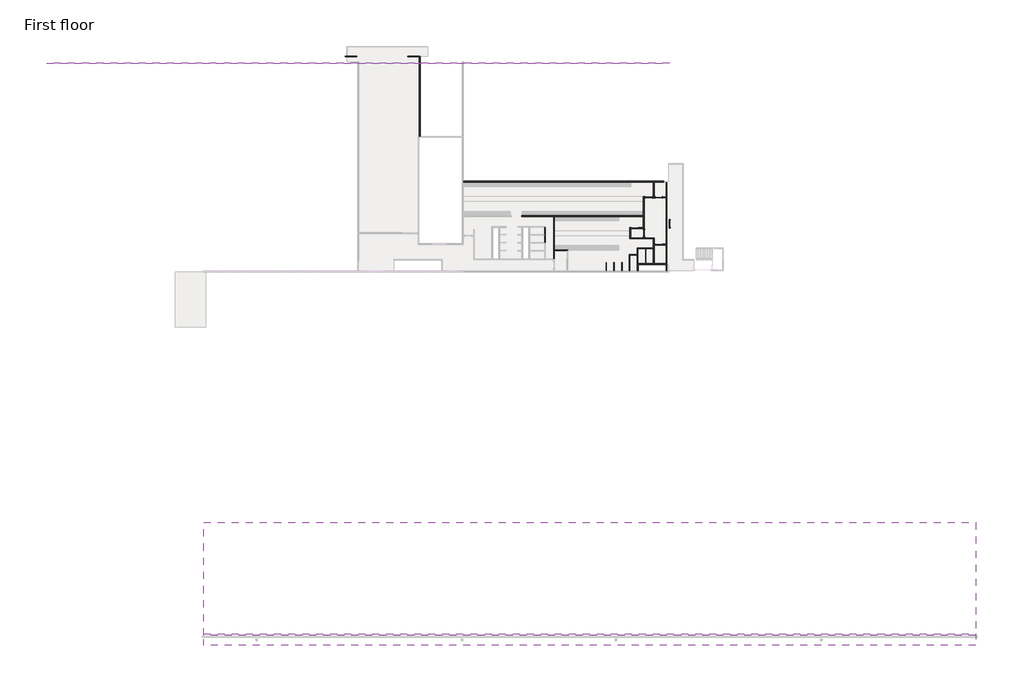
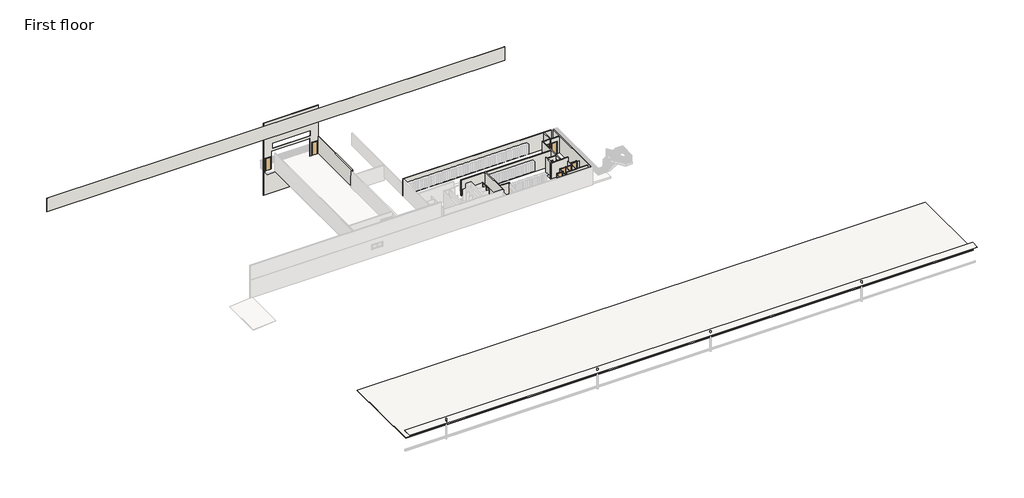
# One storey, part 2 of 5: 30 walls, 13 doors, 2 slabs.
"""IFC4 building model written with IfcOpenShell, lengths in millimetres."""

from ifc_helpers import new_model, si_unit, frame, origin, place, context, project, spatial, polyline, outline, extrude, faceted_brep, transform, mapped, element, save
from components import m_single_flush_0813_x_2030mm_0e9c7165, m_single_flush_0813_x_2030mm_4a34e6f7, m_single_flush_0813_x_2030mm_24a3edba, m_single_flush_0813_x_2030mm_77d0a044, m_single_flush_0813_x_2030mm_dc5b1935, m_single_flush_0813_x_2134mm_f6a4020b, m_single_flush_0813_x_2030mm_d505ac39

model = new_model("IFC4")

# Units and contexts
model_context = context("Model", 3, world=origin())
ifc_project = project(units=[si_unit("LENGTHUNIT", "METRE", prefix="MILLI")], contexts=[model_context])

# Site, building, storey
site = spatial("IfcSite", under=ifc_project)
building = spatial("IfcBuilding", under=site)
storey = spatial("IfcBuildingStorey", under=building, Name="First floor", Elevation=48170.0)

# Doors
placement = place(None, origin())
m_single_flush_0813_x_2030mm_shape = m_single_flush_0813_x_2030mm_0e9c7165(model_context)
element("IfcDoor", 1, ObjectType="M_Single-Flush : 0813 x 2030mm", at=placement, inside=storey, context=model_context, shape_type="MappedRepresentation", body=[
    mapped(m_single_flush_0813_x_2030mm_shape, transform((-82079.6448145, 15101.2777512, 48170.0), x_axis=(1.0, 0.0, 0.0), y_axis=(0.0, 1.0, 0.0), z_axis=(0.0, 0.0, 1.0))),
])
element("IfcDoor", 2, ObjectType="M_Single-Flush : 0813 x 2030mm", at=placement, inside=storey, context=model_context, shape_type="MappedRepresentation", body=[
    mapped(m_single_flush_0813_x_2030mm_shape, transform((-83210.6451319, 20619.2777512, 48170.0), x_axis=(1.0, 0.0, 0.0), y_axis=(0.0, 1.0, 0.0), z_axis=(0.0, 0.0, 1.0))),
])
m_single_flush_0813_x_2030mm_2_shape = m_single_flush_0813_x_2030mm_4a34e6f7(model_context)
element("IfcDoor", 3, ObjectType="M_Single-Flush : 0813 x 2030mm", at=placement, inside=storey, context=model_context, shape_type="MappedRepresentation", body=[
    mapped(m_single_flush_0813_x_2030mm_2_shape, transform((-82071.6448145, 20599.2777512, 48170.0), x_axis=(-1.0, 0.0, 0.0), y_axis=(0.0, -1.0, 0.0), z_axis=(0.0, 0.0, 1.0))),
])
element("IfcDoor", 4, ObjectType="M_Single-Flush : 0813 x 2030mm", at=placement, inside=storey, context=model_context, shape_type="MappedRepresentation", body=[
    mapped(m_single_flush_0813_x_2030mm_2_shape, transform((-84869.6454492, 17019.2679026, 48170.0), x_axis=(-1.0, 0.0, 0.0), y_axis=(0.0, -1.0, 0.0), z_axis=(0.0, 0.0, 1.0))),
])
element("IfcDoor", 5, ObjectType="M_Single-Flush : 0813 x 2030mm", at=placement, inside=storey, context=model_context, shape_type="MappedRepresentation", body=[
    mapped(m_single_flush_0813_x_2030mm_2_shape, transform((-83793.1454492, 16419.2728269, 48170.0), x_axis=(0.0, -1.0, 0.0), y_axis=(1.0, 0.0, 0.0), z_axis=(0.0, 0.0, 1.0))),
])
m_single_flush_0813_x_2030mm_3_shape = m_single_flush_0813_x_2030mm_24a3edba(model_context)
element("IfcDoor", 6, ObjectType="M_Single-Flush : 0813 x 2030mm", at=placement, inside=storey, context=model_context, shape_type="MappedRepresentation", body=[
    mapped(m_single_flush_0813_x_2030mm_3_shape, transform((-84039.6491113, 14658.2777512, 48170.0), x_axis=(1.0, 0.0, 0.0), y_axis=(0.0, 1.0, 0.0), z_axis=(0.0, 0.0, 1.0))),
])
element("IfcDoor", 7, ObjectType="M_Single-Flush : 0813 x 2030mm", at=placement, inside=storey, context=model_context, shape_type="MappedRepresentation", body=[
    mapped(m_single_flush_0813_x_2030mm_3_shape, transform((-83128.1452539, 14658.2777512, 48170.0), x_axis=(1.0, 0.0, 0.0), y_axis=(0.0, 1.0, 0.0), z_axis=(0.0, 0.0, 1.0))),
])
element("IfcDoor", 8, ObjectType="M_Single-Flush : 0813 x 2030mm", at=placement, inside=storey, context=model_context, shape_type="MappedRepresentation", body=[
    mapped(m_single_flush_0813_x_2030mm_3_shape, transform((-84989.6525293, 13908.2777512, 48170.0), x_axis=(1.0, 0.0, 0.0), y_axis=(0.0, 1.0, 0.0), z_axis=(0.0, 0.0, 1.0))),
])
m_single_flush_0813_x_2030mm_4_shape = m_single_flush_0813_x_2030mm_77d0a044(model_context)
element("IfcDoor", 9, ObjectType="M_Single-Flush : 0813 x 2030mm", at=placement, inside=storey, context=model_context, shape_type="MappedRepresentation", body=[
    mapped(m_single_flush_0813_x_2030mm_4_shape, transform((-95325.6956785, 15763.2745286, 48170.0), x_axis=(0.0, 1.0, 0.0), y_axis=(-1.0, 0.0, 0.0), z_axis=(0.0, 0.0, 1.0))),
])
element("IfcDoor", 10, ObjectType="M_Single-Flush : 0813 x 2030mm", at=placement, inside=storey, context=model_context, shape_type="MappedRepresentation", body=[
    mapped(m_single_flush_0813_x_2030mm_4_shape, transform((-95325.6956785, 16693.2717527, 48170.0), x_axis=(0.0, 1.0, 0.0), y_axis=(-1.0, 0.0, 0.0), z_axis=(0.0, 0.0, 1.0))),
])
m_single_flush_0813_x_2030mm_5_shape = m_single_flush_0813_x_2030mm_dc5b1935(model_context)
element("IfcDoor", 11, ObjectType="M_Single-Flush : 0813 x 2030mm", at=placement, inside=storey, context=model_context, shape_type="MappedRepresentation", body=[
    mapped(m_single_flush_0813_x_2030mm_5_shape, transform((-80781.5917799, 17522.7679026, 48170.0), x_axis=(0.0, 1.0, 0.0), y_axis=(-1.0, 0.0, 0.0), z_axis=(0.0, 0.0, 1.0))),
])
m_single_flush_0813_x_2134mm_shape = m_single_flush_0813_x_2134mm_f6a4020b(model_context)
element("IfcDoor", 12, ObjectType="M_Single-Flush : 0813 x 2134mm", at=placement, inside=storey, context=model_context, shape_type="MappedRepresentation", body=[
    mapped(m_single_flush_0813_x_2134mm_shape, transform((-110514.3719448, 37047.2777512, 48170.0), x_axis=(-1.0, 0.0, 0.0), y_axis=(0.0, -1.0, 0.0), z_axis=(0.0, 0.0, 1.0))),
])
m_single_flush_0813_x_2030mm_6_shape = m_single_flush_0813_x_2030mm_d505ac39(model_context)
element("IfcDoor", 13, ObjectType="M_Single-Flush : 813 x 2030mm", at=placement, inside=storey, context=model_context, shape_type="MappedRepresentation", body=[
    mapped(m_single_flush_0813_x_2030mm_6_shape, transform((-117873.900716, 37047.2777512, 48170.0), x_axis=(-1.0, 0.0, 0.0), y_axis=(0.0, -1.0, 0.0), z_axis=(0.0, 0.0, 1.0))),
])

# Slabs
element("IfcSlab", 14, ObjectType="isopanel ceiling", at=placement, inside=storey, context=model_context, shape_type="SweptSolid", body=[
    extrude(outline(polyline([(-45100.5917799, -17321.740321), (-45100.5917799, -30521.740321), (-135100.5917799, -30521.740321), (-135100.5917799, -17321.740321), (-45100.5917799, -17321.740321)])), frame((0.0, 0.0, 50170.0), z_axis=(0.0, 0.0, 1.0), x_axis=(1.0, 0.0, 0.0)), (0.0, 0.0, 1.0), 100.0),
])
element("IfcSlab", 15, ObjectType="cladding", at=placement, inside=storey, context=model_context, shape_type="SweptSolid", body=[
    extrude(outline(polyline([(-45100.5917799, -30321.740321), (-45100.5917799, -31659.740321), (-135100.5917799, -31659.740321), (-135100.5917799, -30321.740321), (-45100.5917799, -30321.740321)])), frame((0.0, 0.0, 51370.0), z_axis=(0.0, 0.0, 1.0), x_axis=(1.0, 0.0, 0.0)), (0.0, 0.0, 1.0), 50.0),
])

# Walls
element("IfcWall", 16, ObjectType="Isopanel", at=placement, inside=storey, context=model_context, shape_type="Brep", body=[
    faceted_brep([(-104947.9372768, 22407.4703267, 48170.0), (-104847.9372768, 22407.4703267, 48170.0), (-82678.1448145, 22407.4703267, 48170.0), (-82578.1448145, 22407.4703267, 48170.0), (-81447.9372768, 22407.4703267, 48170.0), (-81447.9372768, 22407.4703267, 50970.0), (-82578.1448145, 22407.4703267, 50970.0), (-82678.1448145, 22407.4703267, 50970.0), (-104847.9372768, 22407.4703267, 50970.0), (-104947.9372768, 22407.4703267, 50970.0), (-104947.9372768, 22507.4703267, 48170.0), (-104947.9372768, 22507.4703267, 50970.0), (-81447.9372768, 22507.4703267, 50970.0), (-81447.9372768, 22507.4703267, 48170.0)], [[[0, 1, 2, 3, 4, 5, 6, 7, 8, 9]], [[10, 11, 12, 13]], [[4, 3, 2, 1, 0, 10, 13]], [[9, 8, 7, 6, 5, 12, 11]], [[0, 9, 11, 10]], [[5, 4, 13, 12]]]),
])
element("IfcWall", 17, ObjectType="22 Partition", at=placement, inside=storey, context=model_context, shape_type="Brep", body=[
    faceted_brep([(-84516.1491113, 12869.2777512, 48170.0), (-84516.1491113, 14647.2777512, 48170.0), (-84516.1491113, 14669.2777512, 48170.0), (-84516.1491113, 14669.2777512, 50170.0), (-84516.1491113, 14647.2777512, 50170.0), (-84516.1491113, 12869.2777512, 50170.0), (-84538.1491113, 12869.2777512, 48170.0), (-84538.1491113, 12869.2777512, 50170.0), (-84538.1491113, 13897.2777512, 50170.0), (-84538.1491113, 13919.2777512, 50170.0), (-84538.1491113, 14669.2777512, 50170.0), (-84538.1491113, 14669.2777512, 48170.0), (-84538.1491113, 13919.2777512, 48170.0), (-84538.1491113, 13897.2777512, 48170.0)], [[[0, 1, 2, 3, 4, 5]], [[6, 7, 8, 9, 10, 11, 12, 13]], [[2, 1, 0, 6, 13, 12, 11]], [[5, 4, 3, 10, 9, 8, 7]], [[0, 5, 7, 6]], [[3, 2, 11, 10]]]),
])
element("IfcWall", 18, ObjectType="22 Partition", at=placement, inside=storey, context=model_context, shape_type="Brep", body=[
    faceted_brep([(-84516.1491113, 14647.2777512, 50170.0), (-84516.1491113, 14647.2777512, 48170.0), (-84446.1491113, 14647.2777512, 48170.0), (-84446.1491113, 14647.2777512, 50170.0), (-84516.1491113, 14669.2777512, 48170.0), (-84516.1491113, 14669.2777512, 50170.0), (-84446.1491113, 14669.2777512, 50170.0), (-84446.1491113, 14669.2777512, 48170.0)], [[[0, 1, 2, 3]], [[4, 5, 6, 7]], [[1, 4, 7, 2]], [[5, 0, 3, 6]], [[1, 0, 5, 4]], [[3, 2, 7, 6]]]),
    faceted_brep([(-82678.1448145, 14647.2777512, 48170.0), (-82678.1448145, 14647.2777512, 50170.0), (-82721.6452539, 14647.2777512, 50170.0), (-82721.6452539, 14647.2777512, 48170.0), (-82678.1448145, 14669.2777512, 50170.0), (-82678.1448145, 14669.2777512, 48170.0), (-82721.6452539, 14669.2777512, 48170.0), (-82721.6452539, 14669.2777512, 50170.0)], [[[0, 1, 2, 3]], [[4, 5, 6, 7]], [[5, 0, 3, 6]], [[1, 4, 7, 2]], [[1, 0, 5, 4]], [[3, 2, 7, 6]]]),
    faceted_brep([(-83633.1491113, 14647.2777512, 50170.0), (-83633.1491113, 14647.2777512, 48170.0), (-83600.1456934, 14647.2777512, 48170.0), (-83578.1456934, 14647.2777512, 48170.0), (-83534.6452539, 14647.2777512, 48170.0), (-83534.6452539, 14647.2777512, 50170.0), (-83578.1456934, 14647.2777512, 50170.0), (-83600.1456934, 14647.2777512, 50170.0), (-83633.1491113, 14669.2777512, 48170.0), (-83633.1491113, 14669.2777512, 50170.0), (-83534.6452539, 14669.2777512, 50170.0), (-83534.6452539, 14669.2777512, 48170.0)], [[[0, 1, 2, 3, 4, 5, 6, 7]], [[8, 9, 10, 11]], [[1, 8, 11, 4, 3, 2]], [[9, 0, 7, 6, 5, 10]], [[1, 0, 9, 8]], [[5, 4, 11, 10]]]),
])
element("IfcWall", 19, ObjectType="22 Partition", at=placement, inside=storey, context=model_context, shape_type="SweptSolid", body=[
    extrude(outline(polyline([(-83578.1456934, 14647.2777512), (-83578.1456934, 12869.2777512), (-83600.1456934, 12869.2777512), (-83600.1456934, 14647.2777512), (-83578.1456934, 14647.2777512)])), frame((0.0, 0.0, 48170.0), z_axis=(0.0, 0.0, 1.0), x_axis=(1.0, 0.0, 0.0)), (0.0, 0.0, 1.0), 2000.0),
])
element("IfcWall", 20, ObjectType="22 Partition", at=placement, inside=storey, context=model_context, shape_type="Brep", body=[
    faceted_brep([(-95336.6956785, 17147.2679026, 50170.0), (-95336.6956785, 17147.2679026, 48170.0), (-95336.6956785, 17099.7717527, 48170.0), (-95336.6956785, 17099.7717527, 50170.0), (-95314.6956785, 17147.2679026, 48170.0), (-95314.6956785, 17147.2679026, 50170.0), (-95314.6956785, 17099.7717527, 50170.0), (-95314.6956785, 17099.7717527, 48170.0)], [[[0, 1, 2, 3]], [[4, 5, 6, 7]], [[1, 4, 7, 2]], [[5, 0, 3, 6]], [[1, 0, 5, 4]], [[3, 2, 7, 6]]]),
    faceted_brep([(-95336.6956785, 13419.2679026, 48170.0), (-95336.6956785, 13419.2679026, 50170.0), (-95336.6956785, 13481.7696043, 50170.0), (-95336.6956785, 13481.7696043, 48170.0), (-95314.6956785, 13419.2679026, 50170.0), (-95314.6956785, 13419.2679026, 48170.0), (-95314.6956785, 13481.7696043, 48170.0), (-95314.6956785, 13481.7696043, 50170.0)], [[[0, 1, 2, 3]], [[4, 5, 6, 7]], [[5, 0, 3, 6]], [[1, 4, 7, 2]], [[1, 0, 5, 4]], [[3, 2, 7, 6]]]),
    faceted_brep([(-95336.6956785, 14294.7696043, 48170.0), (-95336.6956785, 14294.7696043, 50170.0), (-95336.6956785, 14357.2713059, 50170.0), (-95336.6956785, 14379.2713059, 50170.0), (-95336.6956785, 14399.2713059, 50170.0), (-95336.6956785, 14399.2713059, 48170.0), (-95336.6956785, 14379.2713059, 48170.0), (-95336.6956785, 14357.2713059, 48170.0), (-95314.6956785, 14294.7696043, 50170.0), (-95314.6956785, 14294.7696043, 48170.0), (-95314.6956785, 14399.2713059, 48170.0), (-95314.6956785, 14399.2713059, 50170.0)], [[[0, 1, 2, 3, 4, 5, 6, 7]], [[8, 9, 10, 11]], [[9, 0, 7, 6, 5, 10]], [[1, 8, 11, 4, 3, 2]], [[1, 0, 9, 8]], [[5, 4, 11, 10]]]),
    faceted_brep([(-95336.6956785, 15212.2713059, 48170.0), (-95336.6956785, 15212.2713059, 50170.0), (-95336.6956785, 15287.2734543, 50170.0), (-95336.6956785, 15309.2734543, 50170.0), (-95336.6956785, 15356.7745286, 50170.0), (-95336.6956785, 15356.7745286, 48170.0), (-95336.6956785, 15309.2734543, 48170.0), (-95336.6956785, 15287.2734543, 48170.0), (-95314.6956785, 15212.2713059, 50170.0), (-95314.6956785, 15212.2713059, 48170.0), (-95314.6956785, 15356.7745286, 48170.0), (-95314.6956785, 15356.7745286, 50170.0)], [[[0, 1, 2, 3, 4, 5, 6, 7]], [[8, 9, 10, 11]], [[9, 0, 7, 6, 5, 10]], [[1, 8, 11, 4, 3, 2]], [[1, 0, 9, 8]], [[5, 4, 11, 10]]]),
    faceted_brep([(-95336.6956785, 16169.7745286, 48170.0), (-95336.6956785, 16169.7745286, 50170.0), (-95336.6956785, 16217.2756028, 50170.0), (-95336.6956785, 16239.2756028, 50170.0), (-95336.6956785, 16286.7717527, 50170.0), (-95336.6956785, 16286.7717527, 48170.0), (-95336.6956785, 16239.2756028, 48170.0), (-95336.6956785, 16217.2756028, 48170.0), (-95314.6956785, 16169.7745286, 50170.0), (-95314.6956785, 16169.7745286, 48170.0), (-95314.6956785, 16286.7717527, 48170.0), (-95314.6956785, 16286.7717527, 50170.0)], [[[0, 1, 2, 3, 4, 5, 6, 7]], [[8, 9, 10, 11]], [[9, 0, 7, 6, 5, 10]], [[1, 8, 11, 4, 3, 2]], [[1, 0, 9, 8]], [[5, 4, 11, 10]]]),
])
element("IfcWall", 21, ObjectType="22 Partition", at=placement, inside=storey, context=model_context, shape_type="SweptSolid", body=[
    extrude(outline(polyline([(-88176.155166, 12969.2910325), (-88176.155166, 12008.2777512), (-88198.155166, 12008.2777512), (-88198.155166, 12969.2910325), (-88176.155166, 12969.2910325)])), frame((0.0, 0.0, 48170.0), z_axis=(0.0, 0.0, 1.0), x_axis=(1.0, 0.0, 0.0)), (0.0, 0.0, 1.0), 2000.0),
])
element("IfcWall", 22, ObjectType="22 Partition", at=placement, inside=storey, context=model_context, shape_type="SweptSolid", body=[
    extrude(outline(polyline([(-87268.1530176, 12969.2910325), (-87268.1530176, 12008.2777512), (-87290.1530176, 12008.2777512), (-87290.1530176, 12969.2910325), (-87268.1530176, 12969.2910325)])), frame((0.0, 0.0, 48170.0), z_axis=(0.0, 0.0, 1.0), x_axis=(1.0, 0.0, 0.0)), (0.0, 0.0, 1.0), 2000.0),
])
element("IfcWall", 23, ObjectType="22 Partition", at=placement, inside=storey, context=model_context, shape_type="SweptSolid", body=[
    extrude(outline(polyline([(-86338.1508692, 12969.2910325), (-86338.1508692, 12008.2777512), (-86360.1508692, 12008.2777512), (-86360.1508692, 12969.2910325), (-86338.1508692, 12969.2910325)])), frame((0.0, 0.0, 48170.0), z_axis=(0.0, 0.0, 1.0), x_axis=(1.0, 0.0, 0.0)), (0.0, 0.0, 1.0), 2000.0),
])
element("IfcWall", 24, ObjectType="22 Partition", at=placement, inside=storey, context=model_context, shape_type="Brep", body=[
    faceted_brep([(-85466.1525293, 12008.2777512, 48170.0), (-85466.1525293, 13897.2777512, 48170.0), (-85466.1525293, 13919.2777512, 48170.0), (-85466.1525293, 13919.2777512, 50170.0), (-85466.1525293, 13897.2777512, 50170.0), (-85466.1525293, 12008.2777512, 50170.0), (-85488.1525293, 12008.2777512, 48170.0), (-85488.1525293, 12008.2777512, 50170.0), (-85488.1525293, 13919.2777512, 50170.0), (-85488.1525293, 13919.2777512, 48170.0)], [[[0, 1, 2, 3, 4, 5]], [[6, 7, 8, 9]], [[2, 1, 0, 6, 9]], [[5, 4, 3, 8, 7]], [[3, 2, 9, 8]], [[0, 5, 7, 6]]]),
])
element("IfcWall", 25, ObjectType="22 Partition", at=placement, inside=storey, context=model_context, shape_type="Brep", body=[
    faceted_brep([(-85466.1525293, 13897.2777512, 50170.0), (-85466.1525293, 13897.2777512, 48170.0), (-85396.1525293, 13897.2777512, 48170.0), (-85396.1525293, 13897.2777512, 50170.0), (-85466.1525293, 13919.2777512, 48170.0), (-85466.1525293, 13919.2777512, 50170.0), (-85396.1525293, 13919.2777512, 50170.0), (-85396.1525293, 13919.2777512, 48170.0)], [[[0, 1, 2, 3]], [[4, 5, 6, 7]], [[1, 4, 7, 2]], [[5, 0, 3, 6]], [[1, 0, 5, 4]], [[3, 2, 7, 6]]]),
    faceted_brep([(-84583.1525293, 13897.2777512, 50170.0), (-84583.1525293, 13897.2777512, 48170.0), (-84540.1491113, 13897.2777512, 48170.0), (-84538.1491113, 13897.2777512, 48170.0), (-84538.1491113, 13897.2777512, 50170.0), (-84540.1491113, 13897.2777512, 50170.0), (-84583.1525293, 13919.2777512, 48170.0), (-84583.1525293, 13919.2777512, 50170.0), (-84538.1491113, 13919.2777512, 50170.0), (-84538.1491113, 13919.2777512, 48170.0)], [[[0, 1, 2, 3, 4, 5]], [[6, 7, 8, 9]], [[1, 6, 9, 3, 2]], [[7, 0, 5, 4, 8]], [[1, 0, 7, 6]], [[4, 3, 9, 8]]]),
])
element("IfcWall", 26, ObjectType="22 Partition", at=placement, inside=storey, context=model_context, shape_type="Brep", body=[
    faceted_brep([(-84518.1491113, 12008.2777512, 48170.0), (-84518.1491113, 13897.2777512, 48170.0), (-84518.1491113, 13897.2777512, 50170.0), (-84518.1491113, 12008.2777512, 50170.0), (-84540.1491113, 12008.2777512, 48170.0), (-84540.1491113, 12008.2777512, 50170.0), (-84540.1491113, 13897.2777512, 50170.0), (-84540.1491113, 13897.2777512, 48170.0), (-84538.1491113, 13897.2777512, 48170.0), (-84538.1491113, 13897.2777512, 50170.0)], [[[0, 1, 2, 3]], [[4, 5, 6, 7]], [[1, 0, 4, 7, 8]], [[3, 2, 9, 6, 5]], [[0, 3, 5, 4]], [[2, 1, 8, 7, 6, 9]]]),
])
element("IfcWall", 27, ObjectType="Cladding 3", at=placement, inside=storey, context=model_context, shape_type="SweptSolid", body=[
    extrude(outline(polyline([(-153438.6902477, 36278.2777512), (-80800.5917799, 36278.2777512), (-80800.5917799, 36240.2777512), (-153438.6902477, 36240.2777512), (-153438.6902477, 36278.2777512)])), frame((0.0, 0.0, 54089.4344924), z_axis=(0.0, 0.0, 1.0), x_axis=(1.0, 0.0, 0.0)), (0.0, 0.0, 1.0), 2240.5655076),
])
element("IfcWall", 28, ObjectType="Orange", at=placement, inside=storey, context=model_context, shape_type="Brep", body=[
    faceted_brep([(-109917.8719448, 37028.2777512, 56267.1066037), (-118610.400716, 37028.2777512, 56267.1066037), (-118610.400716, 37028.2777512, 44170.0), (-109917.8719448, 37028.2777512, 44170.0), (-109917.8719448, 37028.2777512, 48170.0), (-109967.8719448, 37028.2777512, 48170.0), (-109967.8719448, 37028.2777512, 51029.3579685), (-109917.8719448, 37028.2777512, 51029.3579685), (-110107.8719448, 37028.2777512, 48170.0), (-110920.8719448, 37028.2777512, 48170.0), (-110920.8719448, 37028.2777512, 50304.0), (-110107.8719448, 37028.2777512, 50304.0), (-111297.8719448, 37028.2777512, 47994.6961827), (-117280.400716, 37028.2777512, 47994.6961827), (-117280.400716, 37028.2777512, 51128.4749022), (-111297.8719448, 37028.2777512, 51128.4749022), (-111201.8406927, 37028.2777512, 51570.0), (-117180.400716, 37028.2777512, 51570.0), (-117180.400716, 37028.2777512, 52370.0), (-111201.8406927, 37028.2777512, 52370.0), (-117467.400716, 37028.2777512, 48170.0), (-118280.400716, 37028.2777512, 48170.0), (-118280.400716, 37028.2777512, 50200.0), (-117467.400716, 37028.2777512, 50200.0), (-109917.8719448, 37066.2777512, 56267.1066037), (-109917.8719448, 37066.2777512, 51029.3579685), (-109967.8719448, 37066.2777512, 51029.3579685), (-109967.8719448, 37066.2777512, 48170.0), (-109917.8719448, 37066.2777512, 48170.0), (-109917.8719448, 37066.2777512, 44170.0), (-118610.400716, 37066.2777512, 44170.0), (-118610.400716, 37066.2777512, 56267.1066037), (-111297.8719448, 37066.2777512, 47994.6961827), (-111297.8719448, 37066.2777512, 51128.4749022), (-117280.400716, 37066.2777512, 51128.4749022), (-117280.400716, 37066.2777512, 47994.6961827), (-110107.8719448, 37066.2777512, 48170.0), (-110107.8719448, 37066.2777512, 50304.0), (-110920.8719448, 37066.2777512, 50304.0), (-110920.8719448, 37066.2777512, 48170.0), (-111201.8406927, 37066.2777512, 51570.0), (-111201.8406927, 37066.2777512, 52370.0), (-117180.400716, 37066.2777512, 52370.0), (-117180.400716, 37066.2777512, 51570.0), (-117467.400716, 37066.2777512, 48170.0), (-117467.400716, 37066.2777512, 50200.0), (-118280.400716, 37066.2777512, 50200.0), (-118280.400716, 37066.2777512, 48170.0), (-118610.400716, 37065.0854127, 44170.0), (-109917.8719448, 37065.0854127, 44170.0), (-109917.8719448, 37065.0854127, 48170.0), (-109967.8719448, 37065.0854127, 48170.0), (-109917.8719448, 37065.0854127, 51029.3579685), (-109967.8719448, 37065.0854127, 51029.3579685), (-111201.8406927, 37065.0854127, 51570.0), (-117180.400716, 37065.0854127, 51570.0), (-117180.400716, 37065.0854127, 52370.0), (-111201.8406927, 37065.0854127, 52370.0)], [[[0, 1, 2, 3, 4, 5, 6, 7], [8, 9, 10, 11], [12, 13, 14, 15], [16, 17, 18, 19], [20, 21, 22, 23]], [[24, 25, 26, 27, 28, 29, 30, 31], [32, 33, 34, 35], [36, 37, 38, 39], [40, 41, 42, 43], [44, 45, 46, 47]], [[9, 8, 36, 39]], [[10, 9, 39, 38]], [[11, 10, 38, 37]], [[8, 11, 37, 36]], [[1, 0, 24, 31]], [[12, 15, 33, 32]], [[13, 12, 32, 35]], [[14, 13, 35, 34]], [[15, 14, 34, 33]], [[2, 1, 31, 30, 48]], [[3, 2, 48, 30, 29, 49]], [[4, 3, 49, 29, 28, 50]], [[27, 51, 5, 4, 50, 28]], [[0, 7, 52, 25, 24]], [[25, 52, 7, 6, 53, 26]], [[6, 5, 51, 27, 26, 53]], [[17, 16, 54, 40, 43, 55]], [[18, 17, 55, 43, 42, 56]], [[19, 18, 56, 42, 41, 57]], [[16, 19, 57, 41, 40, 54]], [[21, 20, 44, 47]], [[22, 21, 47, 46]], [[23, 22, 46, 45]], [[20, 23, 45, 44]]]),
])
element("IfcWall", 29, ObjectType="wall 90 Partition", at=placement, inside=storey, context=model_context, shape_type="Brep", body=[
    faceted_brep([(-109967.8719448, 37027.0854127, 48170.0), (-109967.8719448, 27708.4151802, 48170.0), (-109967.8719448, 27708.4151802, 51029.3579685), (-109967.8719448, 37027.0854127, 51029.3579685), (-109867.8719448, 37027.0854127, 48170.0), (-109867.8719448, 37027.0854127, 51029.3579685), (-109867.8719448, 27708.4151802, 51029.3579685), (-109867.8719448, 27708.4151802, 48170.0), (-109917.8719448, 37027.0854127, 48170.0), (-109917.8719448, 37027.0854127, 51029.3579685)], [[[0, 1, 2, 3]], [[4, 5, 6, 7]], [[1, 0, 8, 4, 7]], [[3, 2, 6, 5, 9]], [[2, 1, 7, 6]], [[0, 3, 9, 5, 4, 8]]]),
])
element("IfcWall", 30, ObjectType="wall 90 Partition", at=placement, inside=storey, context=model_context, shape_type="Brep", body=[
    faceted_brep([(-83843.1454492, 18469.2777512, 48170.0), (-98042.9194517, 18469.2777512, 48170.0), (-98042.9194517, 18469.2777512, 50827.1066037), (-83843.1454492, 18469.2777512, 50827.1066037), (-83843.1454492, 18369.2777512, 48170.0), (-83843.1454492, 18369.2777512, 50827.1066037), (-98042.9194517, 18369.2777512, 50827.1066037), (-98042.9194517, 18369.2777512, 48170.0), (-94314.6956534, 18369.2777512, 48170.0), (-94214.6956534, 18369.2777512, 48170.0)], [[[0, 1, 2, 3]], [[4, 5, 6, 7, 8, 9]], [[1, 0, 4, 9, 8, 7]], [[2, 1, 7, 6]], [[3, 2, 6, 5]], [[0, 3, 5, 4]]]),
])
element("IfcWall", 31, ObjectType="wall 90 Partition", at=placement, inside=storey, context=model_context, shape_type="Brep", body=[
    faceted_brep([(-83843.1454492, 20669.2777512, 48170.0), (-83843.1454492, 18469.2777512, 48170.0), (-83843.1454492, 18369.2777512, 48170.0), (-83843.1454492, 17069.2679026, 48170.0), (-83843.1454492, 16969.2679026, 48170.0), (-83843.1454492, 16969.2679026, 50827.1066037), (-83843.1454492, 17019.2679026, 50827.1066037), (-83843.1454492, 17019.2679026, 50970.0), (-83843.1454492, 20669.2777512, 50970.0), (-83743.1454492, 20669.2777512, 48170.0), (-83743.1454492, 20669.2777512, 50970.0), (-83743.1454492, 20569.2777512, 50970.0), (-83743.1454492, 17019.2679026, 50970.0), (-83743.1454492, 17019.2679026, 50827.1066037), (-83743.1454492, 16969.2679026, 50827.1066037), (-83743.1454492, 16969.2679026, 48170.0), (-83743.1454492, 20569.2777512, 48170.0)], [[[0, 1, 2, 3, 4, 5, 6, 7, 8]], [[9, 10, 11, 12, 13, 14, 15, 16]], [[4, 3, 2, 1, 0, 9, 16, 15]], [[8, 7, 12, 11, 10]], [[0, 8, 10, 9]], [[7, 6, 13, 12]], [[13, 6, 5, 14]], [[5, 4, 15, 14]]]),
])
element("IfcWall", 32, ObjectType="wall 90 Partition", at=placement, inside=storey, context=model_context, shape_type="SweptSolid", body=[
    extrude(outline(polyline([(50200.0, -82804.1451319), (48170.0, -82804.1451319), (48170.0, -82678.1448145), (50970.0, -82678.1448145), (50970.0, -83743.1454492), (48170.0, -83743.1454492), (48170.0, -83617.1451319), (50200.0, -83617.1451319), (50200.0, -82804.1451319)])), frame((0.0, 20569.2777512, 0.0), z_axis=(0.0, 1.0, 0.0), x_axis=(0.0, 0.0, 1.0)), (0.0, 0.0, 1.0), 100.0),
])
element("IfcWall", 33, ObjectType="wall 90 Partition", at=placement, inside=storey, context=model_context, shape_type="Brep", body=[
    faceted_brep([(-82678.1448145, 22407.4703267, 48170.0), (-82678.1448145, 20669.2777512, 48170.0), (-82678.1448145, 20569.2777512, 48170.0), (-82678.1448145, 20549.2777512, 48170.0), (-82678.1448145, 20549.2777512, 50970.0), (-82678.1448145, 20569.2777512, 50970.0), (-82678.1448145, 20669.2777512, 50970.0), (-82678.1448145, 22407.4703267, 50970.0), (-82578.1448145, 22407.4703267, 48170.0), (-82578.1448145, 22407.4703267, 50970.0), (-82578.1448145, 20649.2777512, 50970.0), (-82578.1448145, 20549.2777512, 50970.0), (-82578.1448145, 20549.2777512, 48170.0), (-82578.1448145, 20649.2777512, 48170.0)], [[[0, 1, 2, 3, 4, 5, 6, 7]], [[8, 9, 10, 11, 12, 13]], [[3, 2, 1, 0, 8, 13, 12]], [[7, 6, 5, 4, 11, 10, 9]], [[0, 7, 9, 8]], [[4, 3, 12, 11]]]),
])
element("IfcWall", 34, ObjectType="wall 90 Partition", at=placement, inside=storey, context=model_context, shape_type="SweptSolid", body=[
    extrude(outline(polyline([(48170.0, -82578.1448145), (48170.0, -82478.1448145), (50200.0, -82478.1448145), (50200.0, -81665.1448145), (48170.0, -81665.1448145), (48170.0, -81200.5917799), (50970.0, -81200.5917799), (50970.0, -82578.1448145), (48170.0, -82578.1448145)])), frame((0.0, 20549.2777512, 0.0), z_axis=(0.0, 1.0, 0.0), x_axis=(0.0, 0.0, 1.0)), (0.0, 0.0, 1.0), 100.0),
])
element("IfcWall", 35, ObjectType="wall 90 Partition", at=placement, inside=storey, context=model_context, shape_type="Brep", body=[
    faceted_brep([(-85414.6956616, 17069.2679026, 48170.0), (-85414.6956616, 15769.2777512, 48170.0), (-85414.6956616, 15769.2777512, 51027.1066037), (-85414.6956616, 17069.2679026, 51027.1066037), (-85314.6956616, 17069.2679026, 48170.0), (-85314.6956616, 17069.2679026, 50827.1066037), (-85314.6956616, 17069.2679026, 51027.1066037), (-85314.6956616, 15769.2777512, 51027.1066037), (-85314.6956616, 15769.2777512, 50827.1066037), (-85314.6956616, 15769.2777512, 48170.0), (-85314.6956616, 15869.2777512, 48170.0), (-85314.6956616, 16969.2679026, 48170.0)], [[[0, 1, 2, 3]], [[4, 5, 6, 7, 8, 9, 10, 11]], [[1, 0, 4, 11, 10, 9]], [[3, 2, 7, 6]], [[2, 1, 9, 8, 7]], [[0, 3, 6, 5, 4]]]),
])
element("IfcWall", 36, ObjectType="wall 90 Partition", at=placement, inside=storey, context=model_context, shape_type="Brep", body=[
    faceted_brep([(-85314.6956616, 15769.2777512, 48170.0), (-82678.1448145, 15769.2777512, 48170.0), (-82578.1448145, 15769.2777512, 48170.0), (-82578.1448145, 15769.2777512, 50170.0), (-82578.1448145, 15769.2777512, 50827.1066037), (-85314.6956616, 15769.2777512, 50827.1066037), (-85314.6956616, 15869.2777512, 48170.0), (-85314.6956616, 15869.2777512, 50827.1066037), (-82578.1448145, 15869.2777512, 50827.1066037), (-82578.1448145, 15869.2777512, 48170.0), (-83743.1454492, 15869.2777512, 48170.0), (-83843.1454492, 15869.2777512, 48170.0)], [[[0, 1, 2, 3, 4, 5]], [[6, 7, 8, 9, 10, 11]], [[2, 1, 0, 6, 11, 10, 9]], [[5, 4, 8, 7]], [[0, 5, 7, 6]], [[4, 3, 2, 9, 8]]]),
])
element("IfcWall", 37, ObjectType="wall 90 Partition", at=placement, inside=storey, context=model_context, shape_type="Brep", body=[
    faceted_brep([(-82678.1448145, 15769.2777512, 48170.0), (-82678.1448145, 14669.2777512, 48170.0), (-82678.1448145, 14647.2777512, 48170.0), (-82678.1448145, 12869.2777512, 48170.0), (-82678.1448145, 12869.2777512, 50170.0), (-82678.1448145, 14647.2777512, 50170.0), (-82678.1448145, 14669.2777512, 50170.0), (-82678.1448145, 15769.2777512, 50170.0), (-82578.1448145, 15769.2777512, 48170.0), (-82578.1448145, 15769.2777512, 50170.0), (-82578.1448145, 12869.2777512, 50170.0), (-82578.1448145, 12869.2777512, 48170.0)], [[[0, 1, 2, 3, 4, 5, 6, 7]], [[8, 9, 10, 11]], [[3, 2, 1, 0, 8, 11]], [[7, 6, 5, 4, 10, 9]], [[0, 7, 9, 8]], [[4, 3, 11, 10]]]),
])
element("IfcWall", 38, ObjectType="wall 90 Partition", at=placement, inside=storey, context=model_context, shape_type="Brep", body=[
    faceted_brep([(-84438.1491113, 12008.2777512, 48170.0), (-84438.1491113, 12769.2777512, 48170.0), (-84438.1491113, 12869.2777512, 48170.0), (-84438.1491113, 12869.2777512, 50170.0), (-84438.1491113, 12008.2777512, 50170.0), (-84538.1491113, 12008.2777512, 48170.0), (-84538.1491113, 12008.2777512, 50170.0), (-84538.1491113, 12869.2777512, 50170.0), (-84538.1491113, 12869.2777512, 48170.0)], [[[0, 1, 2, 3, 4]], [[5, 6, 7, 8]], [[2, 1, 0, 5, 8]], [[4, 3, 7, 6]], [[3, 2, 8, 7]], [[0, 4, 6, 5]]]),
])
element("IfcWall", 39, ObjectType="wall 90 Partition", at=placement, inside=storey, context=model_context, shape_type="Brep", body=[
    faceted_brep([(-84438.1491113, 12769.2777512, 48170.0), (-81200.5917799, 12769.2777512, 48170.0), (-81200.5917799, 12769.2777512, 50827.1066037), (-84438.1491113, 12769.2777512, 50827.1066037), (-84438.1491113, 12869.2777512, 48170.0), (-84438.1491113, 12869.2777512, 50170.0), (-84438.1491113, 12869.2777512, 50827.1066037), (-81200.5917799, 12869.2777512, 50827.1066037), (-81200.5917799, 12869.2777512, 48170.0), (-82578.1448145, 12869.2777512, 48170.0), (-82678.1448145, 12869.2777512, 48170.0), (-83578.1456934, 12869.2777512, 48170.0), (-83600.1456934, 12869.2777512, 48170.0)], [[[0, 1, 2, 3]], [[4, 5, 6, 7, 8, 9, 10, 11, 12]], [[1, 0, 4, 12, 11, 10, 9, 8]], [[3, 2, 7, 6]], [[0, 3, 6, 5, 4]], [[2, 1, 8, 7]]]),
])
element("IfcWall", 40, ObjectType="wall 90 Partition", at=placement, inside=storey, context=model_context, shape_type="Brep", body=[
    faceted_brep([(-81100.5917799, 12008.2777512, 48170.0), (-81100.5917799, 22294.7192501, 48170.0), (-81100.5917799, 22294.7192501, 51027.1066037), (-81100.5917799, 12008.2777512, 51027.1066037), (-81200.5917799, 12008.2777512, 48170.0), (-81200.5917799, 12008.2777512, 51027.1066037), (-81200.5917799, 22294.7192501, 51027.1066037), (-81200.5917799, 22294.7192501, 48170.0), (-81200.5917799, 20649.2777512, 48170.0), (-81200.5917799, 20549.2777512, 48170.0), (-81200.5917799, 15151.2777512, 48170.0), (-81200.5917799, 15051.2777512, 48170.0), (-81200.5917799, 12869.2777512, 48170.0), (-81200.5917799, 12769.2777512, 48170.0)], [[[0, 1, 2, 3]], [[4, 5, 6, 7, 8, 9, 10, 11, 12, 13]], [[1, 0, 4, 13, 12, 11, 10, 9, 8, 7]], [[2, 1, 7, 6]], [[3, 2, 6, 5]], [[0, 3, 5, 4]]]),
])
element("IfcWall", 41, ObjectType="wall 90 Partition", at=placement, inside=storey, context=model_context, shape_type="Brep", body=[
    faceted_brep([(-92674.9288687, 14469.2762493, 48170.0), (-94214.6956534, 14469.2762493, 48170.0), (-94214.6956534, 14469.2762493, 50970.0), (-92674.9288687, 14469.2762493, 50970.0), (-92674.9288687, 14369.2762493, 48170.0), (-92674.9288687, 14369.2762493, 50827.1066037), (-92674.9288687, 14369.2762493, 50970.0), (-94214.6956534, 14369.2762493, 50970.0), (-94214.6956534, 14369.2762493, 48170.0), (-92774.9288687, 14369.2762493, 48170.0)], [[[0, 1, 2, 3]], [[4, 5, 6, 7, 8, 9]], [[1, 0, 4, 9, 8]], [[3, 2, 7, 6]], [[2, 1, 8, 7]], [[0, 3, 6, 5, 4]]]),
])
element("IfcWall", 42, ObjectType="wall 90 Partition", at=placement, inside=storey, context=model_context, shape_type="Brep", body=[
    faceted_brep([(-94314.6956534, 18369.2777512, 48170.0), (-94314.6956534, 13419.2679026, 48170.0), (-94314.6956534, 13419.2679026, 50970.0), (-94314.6956534, 18369.2777512, 50970.0), (-94214.6956534, 18369.2777512, 48170.0), (-94214.6956534, 18369.2777512, 50970.0), (-94214.6956534, 14469.2762493, 50970.0), (-94214.6956534, 14369.2762493, 50970.0), (-94214.6956534, 13419.2679026, 50970.0), (-94214.6956534, 13419.2679026, 48170.0), (-94214.6956534, 14369.2762493, 48170.0), (-94214.6956534, 14469.2762493, 48170.0)], [[[0, 1, 2, 3]], [[4, 5, 6, 7, 8, 9, 10, 11]], [[1, 0, 4, 11, 10, 9]], [[3, 2, 8, 7, 6, 5]], [[2, 1, 9, 8]], [[0, 3, 5, 4]]]),
])
element("IfcWall", 43, ObjectType="wall 90 Partition", at=placement, inside=storey, context=model_context, shape_type="Brep", body=[
    faceted_brep([(-85276.1454492, 17069.2679026, 50200.0), (-85276.1454492, 17069.2679026, 48170.0), (-85314.6956616, 17069.2679026, 48170.0), (-85314.6956616, 17069.2679026, 50827.1066037), (-83843.1454492, 17069.2679026, 50827.1066037), (-83843.1454492, 17069.2679026, 48170.0), (-84463.1454492, 17069.2679026, 48170.0), (-84463.1454492, 17069.2679026, 50200.0), (-85314.6956616, 16969.2679026, 48170.0), (-85276.1454492, 16969.2679026, 48170.0), (-85276.1454492, 16969.2679026, 50200.0), (-84463.1454492, 16969.2679026, 50200.0), (-84463.1454492, 16969.2679026, 48170.0), (-83843.1454492, 16969.2679026, 48170.0), (-83843.1454492, 16969.2679026, 50827.1066037), (-85314.6956616, 16969.2679026, 50827.1066037), (-83843.1454492, 17019.2679026, 50827.1066037)], [[[0, 1, 2, 3, 4, 5, 6, 7]], [[8, 9, 10, 11, 12, 13, 14, 15]], [[6, 5, 13, 12]], [[2, 1, 9, 8]], [[4, 3, 15, 14, 16]], [[3, 2, 8, 15]], [[10, 9, 1, 0]], [[11, 10, 0, 7]], [[12, 11, 7, 6]], [[5, 4, 16, 14, 13]]]),
])
element("IfcWall", 44, ObjectType="wall 90 Partition", at=placement, inside=storey, context=model_context, shape_type="SweptSolid", body=[
    extrude(outline(polyline([(-82567.1448145, 15051.2777512), (-82567.1448145, 15151.2777512), (-82486.1448145, 15151.2777512), (-82486.1448145, 15051.2777512), (-82567.1448145, 15051.2777512)])), frame((0.0, 0.0, 48170.0), z_axis=(0.0, 0.0, 1.0), x_axis=(1.0, 0.0, 0.0)), (0.0, 0.0, 1.0), 2000.0),
    extrude(outline(polyline([(-81200.5917799, 15151.2777512), (-81200.5917799, 15051.2777512), (-81673.1448145, 15051.2777512), (-81673.1448145, 15151.2777512), (-81200.5917799, 15151.2777512)])), frame((0.0, 0.0, 48170.0), z_axis=(0.0, 0.0, 1.0), x_axis=(1.0, 0.0, 0.0)), (0.0, 0.0, 1.0), 2000.0),
])
element("IfcWall", 45, ObjectType="wall 90 Partition", at=placement, inside=storey, context=model_context, shape_type="SweptSolid", body=[
    extrude(outline(polyline([(16012.7728269, 50200.0), (16012.7728269, 48170.0), (15869.2777512, 48170.0), (15869.2777512, 50970.0), (17019.2679026, 50970.0), (17019.2679026, 50827.1066037), (16969.2679026, 50827.1066037), (16969.2679026, 48170.0), (16825.7728269, 48170.0), (16825.7728269, 50200.0), (16012.7728269, 50200.0)])), frame((-83843.1454492, 0.0, 0.0), z_axis=(1.0, 0.0, 0.0), x_axis=(0.0, 1.0, 0.0)), (0.0, 0.0, 1.0), 100.0),
])

save(model, "model.ifc")
